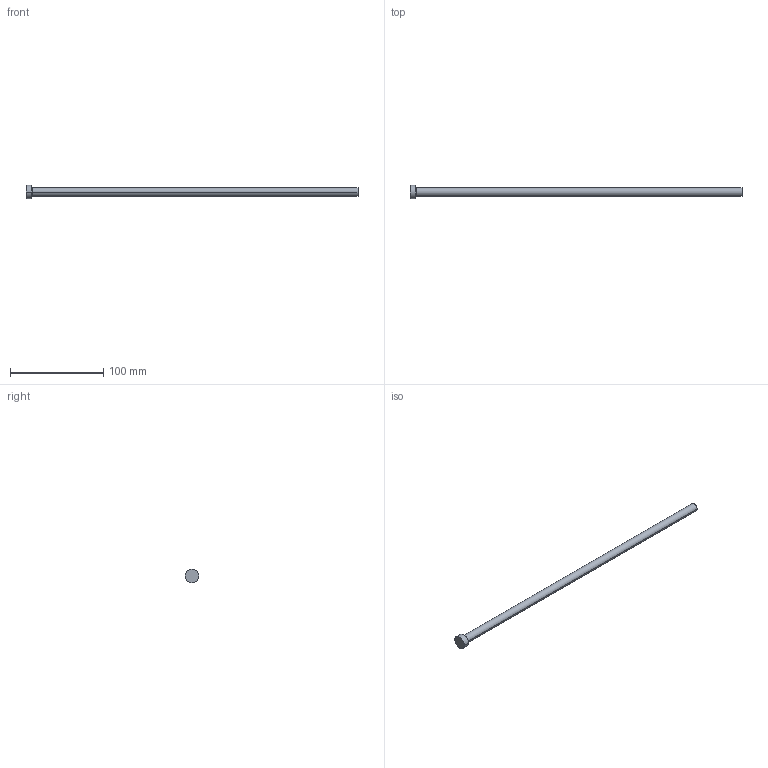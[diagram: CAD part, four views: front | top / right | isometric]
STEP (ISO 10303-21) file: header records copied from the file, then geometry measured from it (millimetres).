
FILE_DESCRIPTION (( 'STEP AP214' ), '1' );
FILE_NAME ('P23-14.STEP', '2020-03-12T09:42:16', ( '' ), ( '' ), 'SwSTEP 2.0', 'SolidWorks 2018', '' );
FILE_SCHEMA (( 'AUTOMOTIVE_DESIGN' ));
Length unit declared in the file: inch
Products named in the file (1): P23-14
Bounding box: 355.6 x 14.29 x 14.29 mm (x, y, z)
Volume: 21895.9 mm3; surface area: 10163.2 mm2
Topology: 1 solids, 1 shells, 13 faces, 24 edges, 14 vertices
Faces by surface type: cone 4, cylinder 4, plane 3, torus 2
Entity records: 366 total; most frequent: DIRECTION 68, CARTESIAN_POINT 52, ORIENTED_EDGE 48, AXIS2_PLACEMENT_3D 30, EDGE_CURVE 24, CIRCLE 16, VERTEX_POINT 14, EDGE_LOOP 14
